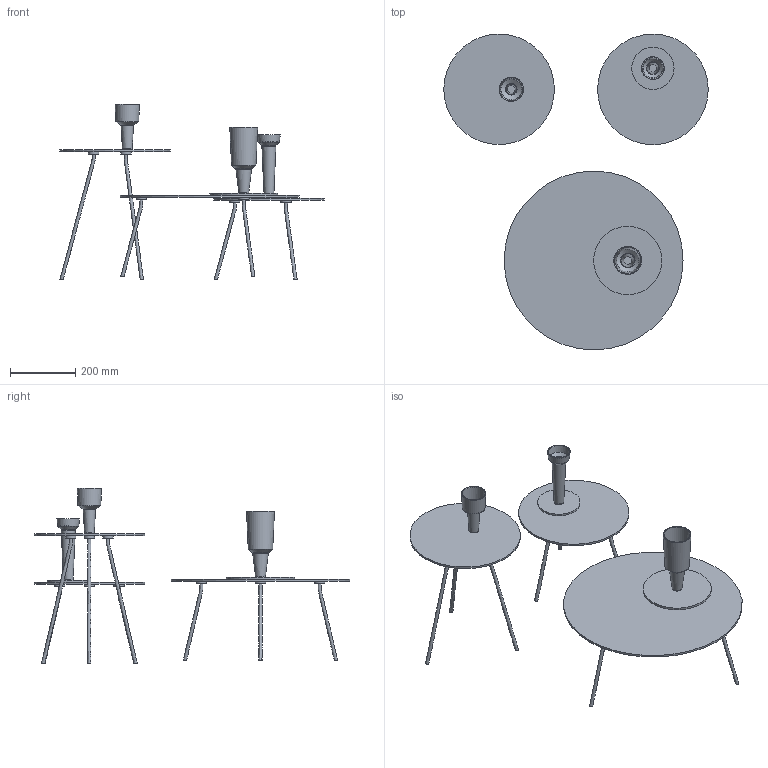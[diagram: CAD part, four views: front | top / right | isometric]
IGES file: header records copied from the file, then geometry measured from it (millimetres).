
Start section: Data from Parasolid IGES Translator 17.0.49, Copyright(c) 2006 Siemens P LM Software. All Rights Reserved.
Global section: file name: Bond.igs; native system: By Siemens PLM Incorporated; preprocessor: XPlus GENERIC/IGES 17.0.49; author: Noname; organization: Noname; date: 20170620.111429; units: metre
Bounding box: 812.87 x 971.12 x 539 mm (x, y, z)
Volume: 3069176.6 mm3; surface area: 1244471.1 mm2
Topology: 14 solids, 14 shells, 105 faces, 225 edges, 177 vertices
Faces by surface type: plane 37, revolution 36, cylinder 14, extrusion 9, bspline 9
Full cylindrical faces by diameter (mm): 32 x9, 130 x1, 210 x1, 340 x2, 550 x1
